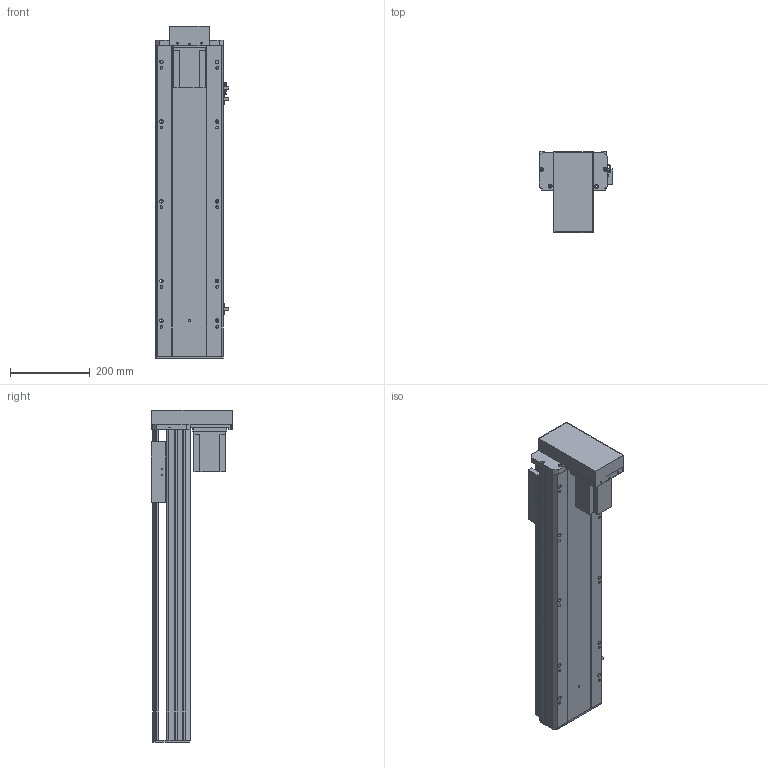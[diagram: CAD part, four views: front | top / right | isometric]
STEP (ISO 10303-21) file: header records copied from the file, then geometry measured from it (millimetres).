
FILE_DESCRIPTION (( 'STEP AP203' ), '1' );
FILE_NAME ('Y170-D10-S550-BM-P750W.STEP', '2020-01-22T02:59:31', ( '微软用户' ), ( '微软中国' ), 'SwSTEP 2.0', 'SolidWorks 2017', '' );
FILE_SCHEMA (( 'CONFIG_CONTROL_DESIGN' ));
Length unit declared in the file: millimetre
Products named in the file (12): Y170-D10-S550-BM-P750W; EGH20賑輸_蕼偞; Y雄赽釱-耜蚾; Y170-陔遴奻裔-BR; 170-BM耜蚾蟀諉啣; Y170-BM--P750W楊擘啣; -BM俋袗; Y170耜裔--準---; YD-Y100-135-新外置传感挡片(通用）; 170--掛极-BR; Y100-135俋离換覜ん; 侂狟750W
Assembly tree (14 placements, depth 2):
  Y170-D10-S550-BM-P750W
    Y170耜裔--準---
    170--掛极-BR
    侂狟750W
    EGH20賑輸_蕼偞  x2
    Y雄赽釱-耜蚾
    Y170-陔遴奻裔-BR
    170-BM耜蚾蟀諉啣
    Y170-BM--P750W楊擘啣
    -BM俋袗
    YD-Y100-135-新外置传感挡片(通用）
    Y100-135俋离換覜ん  x3
Bounding box: 183.5 x 203.5 x 833.5 mm (x, y, z)
Volume: 4382328.6 mm3; surface area: 1458763.5 mm2
Topology: 14 solids, 14 shells, 894 faces, 2508 edges, 1654 vertices
Faces by surface type: cylinder 442, plane 436, cone 16
Entity records: 28106 total; most frequent: CARTESIAN_POINT 4919, DIRECTION 4664, ORIENTED_EDGE 4512, EDGE_CURVE 2256, AXIS2_PLACEMENT_3D 1651, VERTEX_POINT 1498, VECTOR 1362, LINE 1362
